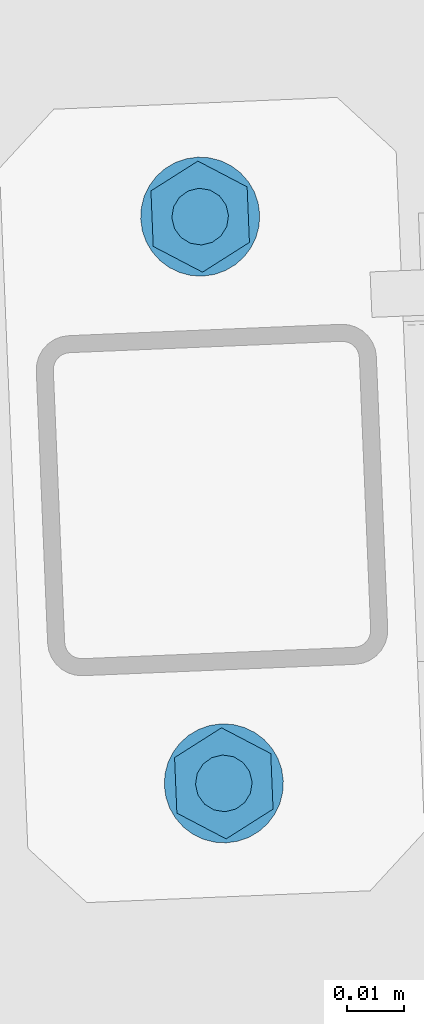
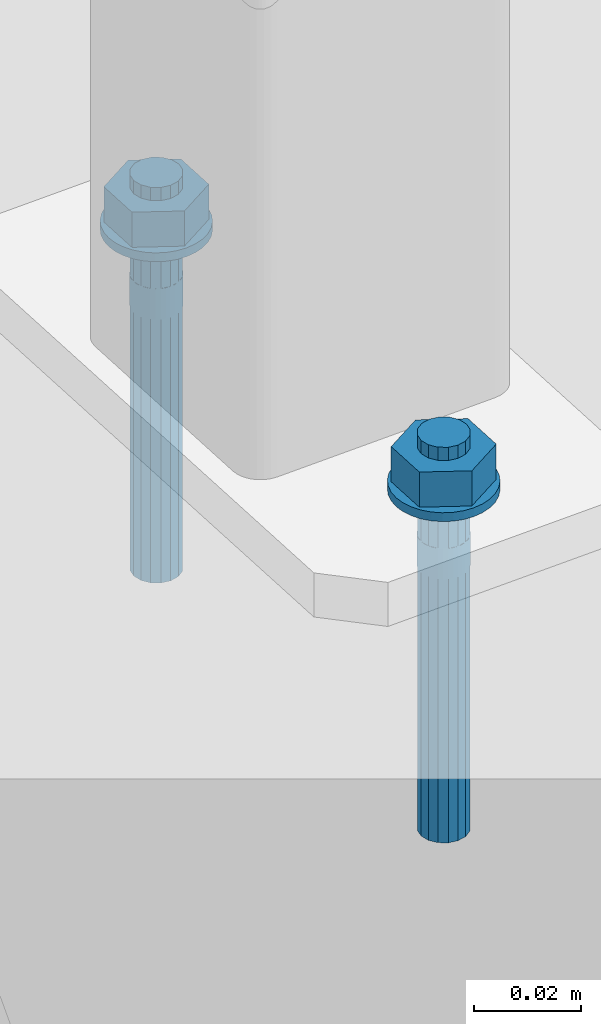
# One storey, part 192 of 288: 2 mechanical fasteners.
"""IFC2X3 building model written with IfcOpenShell, lengths in millimetres."""

from ifc_helpers import new_model, entity, si_unit, converted_unit, origin_with_axes, place, context, project, spatial, faceted_brep, element, save


model = new_model("IFC2X3")

# Units and contexts
model_context = context("Model", 3, precision=1e-09, world=origin_with_axes())
ifc_project = project(units=[si_unit("LENGTHUNIT", "METRE", prefix="MILLI"), si_unit("AREAUNIT", "SQUARE_METRE"), si_unit("VOLUMEUNIT", "CUBIC_METRE"), converted_unit("PLANEANGLEUNIT", "DEGREE", entity("IfcPlaneAngleMeasure", 0.01745329), si_unit("PLANEANGLEUNIT", "RADIAN"), dimensions=[0, 0, 0, 0, 0, 0, 0])], contexts=[model_context])

# Site, building, storey
site_placement = place(None, origin_with_axes())
site = spatial("IfcSite", under=ifc_project, at=site_placement, Name="Remont ?wietlik?w nad MC w NCPP w Opolu", CompositionType="ELEMENT")
building_placement = place(site_placement, origin_with_axes())
building = spatial("IfcBuilding", under=site, at=building_placement, Name="Konstrukcja 1", CompositionType="ELEMENT")
storey_placement = place(building_placement, origin_with_axes())
storey = spatial("IfcBuildingStorey", under=building, at=storey_placement, Name="Default Storey", CompositionType="ELEMENT", Elevation=0.0)

# Mechanical fasteners
mechanical_fastener_1_placement = place(None, origin_with_axes())
element("IfcMechanicalFastener", 1, at=mechanical_fastener_1_placement, inside=storey, ObjectType="Anchor_Bolt", NominalDiameter=10.0, NominalLength=90.0, context=model_context, shape_type="Brep", body=[
    faceted_brep([(-150.734219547, 866.370818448, 11.999999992), (-150.734219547, 866.370818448, 9.999999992), (-151.021161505, 868.409079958, 9.999999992), (-151.021161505, 868.409079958, 11.999999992), (-151.700235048, 870.352197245, 9.999999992), (-151.700235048, 870.352197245, 11.999999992), (-152.745343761, 872.125497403, 9.999999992), (-152.745343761, 872.125497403, 11.999999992), (-154.116324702, 873.6608335, 9.999999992), (-154.116324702, 873.6608335, 11.999999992), (-155.760491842, 874.899203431, 9.999999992), (-155.760491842, 874.899203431, 11.999999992), (-157.61466076, 875.793017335, 9.999999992), (-157.61466076, 875.793017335, 11.999999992), (-159.607576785, 876.307926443, 9.999999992), (-159.607576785, 876.307926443, 11.999999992), (-161.66265327, 876.424143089, 9.999999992), (-161.66265327, 876.424143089, 11.999999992), (-163.70091478, 876.137201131, 9.999999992), (-163.70091478, 876.137201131, 11.999999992), (-165.644032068, 875.458127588, 9.999999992), (-165.644032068, 875.458127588, 11.999999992), (-167.417332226, 874.413018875, 9.999999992), (-167.417332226, 874.413018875, 11.999999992), (-168.952668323, 873.042037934, 9.999999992), (-168.952668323, 873.042037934, 11.999999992), (-170.191038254, 871.397870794, 9.999999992), (-170.191038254, 871.397870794, 11.999999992), (-171.084852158, 869.543701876, 9.999999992), (-171.084852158, 869.543701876, 11.999999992), (-171.599761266, 867.550785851, 9.999999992), (-171.599761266, 867.550785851, 11.999999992), (-171.715977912, 865.495709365, 9.999999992), (-171.715977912, 865.495709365, 11.999999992), (-171.429035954, 863.457447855, 9.999999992), (-171.429035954, 863.457447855, 11.999999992), (-170.74996241, 861.514330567, 9.999999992), (-170.74996241, 861.514330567, 11.999999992), (-169.704853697, 859.74103041, 9.999999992), (-169.704853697, 859.74103041, 11.999999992), (-168.333872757, 858.205694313, 9.999999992), (-168.333872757, 858.205694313, 11.999999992), (-166.689705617, 856.967324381, 9.999999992), (-166.689705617, 856.967324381, 11.999999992), (-164.835536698, 856.073510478, 9.999999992), (-164.835536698, 856.073510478, 11.999999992), (-162.842620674, 855.558601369, 9.999999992), (-162.842620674, 855.558601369, 11.999999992), (-160.787544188, 855.442384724, 9.999999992), (-160.787544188, 855.442384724, 11.999999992), (-158.749282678, 855.729326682, 9.999999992), (-158.749282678, 855.729326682, 11.999999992), (-156.80616539, 856.408400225, 9.999999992), (-156.80616539, 856.408400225, 11.999999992), (-155.032865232, 857.453508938, 9.999999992), (-155.032865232, 857.453508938, 11.999999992), (-153.497529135, 858.824489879, 9.999999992), (-153.497529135, 858.824489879, 11.999999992), (-152.259159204, 860.468657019, 9.999999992), (-152.259159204, 860.468657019, 11.999999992), (-151.365345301, 862.322825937, 9.999999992), (-151.365345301, 862.322825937, 11.999999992), (-150.850436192, 864.315741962, 9.999999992), (-150.850436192, 864.315741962, 11.999999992)], [[[0, 1, 2, 3]], [[3, 2, 4, 5]], [[5, 4, 6, 7]], [[7, 6, 8, 9]], [[9, 8, 10, 11]], [[11, 10, 12, 13]], [[13, 12, 14, 15]], [[15, 14, 16, 17]], [[17, 16, 18, 19]], [[19, 18, 20, 21]], [[21, 20, 22, 23]], [[23, 22, 24, 25]], [[25, 24, 26, 27]], [[27, 26, 28, 29]], [[29, 28, 30, 31]], [[31, 30, 32, 33]], [[33, 32, 34, 35]], [[35, 34, 36, 37]], [[37, 36, 38, 39]], [[39, 38, 40, 41]], [[41, 40, 42, 43]], [[43, 42, 44, 45]], [[45, 44, 46, 47]], [[47, 46, 48, 49]], [[49, 48, 50, 51]], [[51, 50, 52, 53]], [[53, 52, 54, 55]], [[55, 54, 56, 57]], [[57, 56, 58, 59]], [[59, 58, 60, 61]], [[61, 60, 62, 63]], [[63, 62, 1, 0]], [[0, 3, 5, 7, 9, 11, 13, 15, 17, 19, 21, 23, 25, 27, 29, 31, 33, 35, 37, 39, 41, 43, 45, 47, 49, 51, 53, 55, 57, 59, 61, 63]], [[1, 62, 60, 58, 56, 54, 52, 50, 48, 46, 44, 42, 40, 38, 36, 34, 32, 30, 28, 26, 24, 22, 20, 18, 16, 14, 12, 10, 8, 6, 4, 2]]]),
    faceted_brep([(-169.908967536, 870.4753364, 11.999999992), (-169.908967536, 870.4753364, 19.999999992), (-161.633482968, 875.724751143, 19.999999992), (-161.633482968, 875.724751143, 11.999999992), (-152.94961416, 871.18267865, 19.999999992), (-152.94961416, 871.18267865, 11.999999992), (-152.541229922, 861.391191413, 19.999999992), (-152.541229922, 861.391191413, 11.999999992), (-160.816714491, 856.141776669, 19.999999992), (-160.816714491, 856.141776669, 11.999999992), (-169.500583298, 860.683849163, 19.999999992), (-169.500583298, 860.683849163, 11.999999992)], [[[0, 1, 2, 3]], [[3, 2, 4, 5]], [[5, 4, 6, 7]], [[7, 6, 8, 9]], [[9, 8, 10, 11]], [[11, 10, 1, 0]], [[4, 2, 1, 10, 8, 6]], [[0, 3, 5, 7, 9, 11]]]),
    faceted_brep([(-156.229441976, 866.141623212, 22.999999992), (-156.229441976, 866.141623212, 19.999999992), (-156.689449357, 868.037517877, 19.999999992), (-156.689449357, 868.037517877, 22.999999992), (-157.83996824, 869.613058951, 19.999999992), (-157.83996824, 869.613058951, 22.999999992), (-159.505842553, 870.628384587, 19.999999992), (-159.505842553, 870.628384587, 22.999999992), (-161.433458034, 870.92892066, 19.999999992), (-161.433458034, 870.92892066, 22.999999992), (-163.3293527, 870.468913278, 19.999999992), (-163.3293527, 870.468913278, 22.999999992), (-164.904893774, 869.318394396, 19.999999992), (-164.904893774, 869.318394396, 22.999999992), (-165.920219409, 867.652520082, 19.999999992), (-165.920219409, 867.652520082, 22.999999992), (-166.220755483, 865.724904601, 19.999999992), (-166.220755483, 865.724904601, 22.999999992), (-165.760748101, 863.829009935, 19.999999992), (-165.760748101, 863.829009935, 22.999999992), (-164.610229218, 862.253468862, 19.999999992), (-164.610229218, 862.253468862, 22.999999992), (-162.944354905, 861.238143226, 19.999999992), (-162.944354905, 861.238143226, 22.999999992), (-161.016739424, 860.937607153, 19.999999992), (-161.016739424, 860.937607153, 22.999999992), (-159.120844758, 861.397614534, 19.999999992), (-159.120844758, 861.397614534, 22.999999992), (-157.545303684, 862.548133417, 19.999999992), (-157.545303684, 862.548133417, 22.999999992), (-156.529978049, 864.214007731, 19.999999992), (-156.529978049, 864.214007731, 22.999999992)], [[[0, 1, 2, 3]], [[3, 2, 4, 5]], [[5, 4, 6, 7]], [[7, 6, 8, 9]], [[9, 8, 10, 11]], [[11, 10, 12, 13]], [[13, 12, 14, 15]], [[15, 14, 16, 17]], [[17, 16, 18, 19]], [[19, 18, 20, 21]], [[21, 20, 22, 23]], [[23, 22, 24, 25]], [[25, 24, 26, 27]], [[27, 26, 28, 29]], [[29, 28, 30, 31]], [[31, 30, 1, 0]], [[0, 3, 5, 7, 9, 11, 13, 15, 17, 19, 21, 23, 25, 27, 29, 31]], [[1, 30, 28, 26, 24, 22, 20, 18, 16, 14, 12, 10, 8, 6, 4, 2]]]),
    faceted_brep([(-156.229441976, 866.141623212, 10.000000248), (-156.229441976, 866.141623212, -8e-09), (-156.689449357, 868.037517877, -8e-09), (-156.689449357, 868.037517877, 10.000000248), (-157.83996824, 869.613058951, -8e-09), (-157.83996824, 869.613058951, 10.000000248), (-159.505842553, 870.628384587, -8e-09), (-159.505842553, 870.628384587, 10.000000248), (-161.433458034, 870.92892066, -8e-09), (-161.433458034, 870.92892066, 10.000000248), (-163.3293527, 870.468913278, -8e-09), (-163.3293527, 870.468913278, 10.000000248), (-164.904893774, 869.318394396, -8e-09), (-164.904893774, 869.318394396, 10.000000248), (-165.920219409, 867.652520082, -8e-09), (-165.920219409, 867.652520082, 10.000000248), (-166.220755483, 865.724904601, -8e-09), (-166.220755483, 865.724904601, 10.000000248), (-165.760748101, 863.829009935, -8e-09), (-165.760748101, 863.829009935, 10.000000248), (-164.610229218, 862.253468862, -8e-09), (-164.610229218, 862.253468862, 10.000000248), (-162.944354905, 861.238143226, -8e-09), (-162.944354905, 861.238143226, 10.000000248), (-161.016739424, 860.937607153, -8e-09), (-161.016739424, 860.937607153, 10.000000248), (-159.120844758, 861.397614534, -8e-09), (-159.120844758, 861.397614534, 10.000000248), (-157.545303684, 862.548133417, -8e-09), (-157.545303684, 862.548133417, 10.000000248), (-156.529978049, 864.214007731, -8e-09), (-156.529978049, 864.214007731, 10.000000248)], [[[0, 1, 2, 3]], [[3, 2, 4, 5]], [[5, 4, 6, 7]], [[7, 6, 8, 9]], [[9, 8, 10, 11]], [[11, 10, 12, 13]], [[13, 12, 14, 15]], [[15, 14, 16, 17]], [[17, 16, 18, 19]], [[19, 18, 20, 21]], [[21, 20, 22, 23]], [[23, 22, 24, 25]], [[25, 24, 26, 27]], [[27, 26, 28, 29]], [[29, 28, 30, 31]], [[31, 30, 1, 0]], [[0, 3, 5, 7, 9, 11, 13, 15, 17, 19, 21, 23, 25, 27, 29, 31]], [[1, 30, 28, 26, 24, 22, 20, 18, 16, 14, 12, 10, 8, 6, 4, 2]]]),
    faceted_brep([(-156.229441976, 866.141623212, -2.64e-07), (-156.229441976, 866.141623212, -7.000000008), (-156.366081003, 867.112223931, -7.000000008), (-156.366081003, 867.112223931, -2.64e-07), (-156.689449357, 868.037517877, -7.000000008), (-156.689449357, 868.037517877, -2.64e-07), (-157.187120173, 868.881946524, -7.000000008), (-157.187120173, 868.881946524, -2.64e-07), (-157.83996824, 869.613058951, -7.000000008), (-157.83996824, 869.613058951, -2.64e-07), (-158.622904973, 870.202758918, -7.000000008), (-158.622904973, 870.202758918, -2.64e-07), (-159.505842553, 870.628384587, -7.000000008), (-159.505842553, 870.628384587, -2.64e-07), (-160.454850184, 870.8735794, -7.000000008), (-160.454850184, 870.8735794, -2.64e-07), (-161.433458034, 870.92892066, -7.000000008), (-161.433458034, 870.92892066, -2.64e-07), (-162.404058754, 870.792281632, -7.000000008), (-162.404058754, 870.792281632, -2.64e-07), (-163.3293527, 870.468913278, -7.000000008), (-163.3293527, 870.468913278, -2.64e-07), (-164.173781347, 869.971242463, -7.000000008), (-164.173781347, 869.971242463, -2.64e-07), (-164.904893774, 869.318394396, -7.000000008), (-164.904893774, 869.318394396, -2.64e-07), (-165.494593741, 868.535457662, -7.000000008), (-165.494593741, 868.535457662, -2.64e-07), (-165.920219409, 867.652520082, -7.000000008), (-165.920219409, 867.652520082, -2.64e-07), (-166.165414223, 866.703512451, -7.000000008), (-166.165414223, 866.703512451, -2.64e-07), (-166.220755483, 865.724904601, -7.000000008), (-166.220755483, 865.724904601, -2.64e-07), (-166.084116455, 864.754303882, -7.000000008), (-166.084116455, 864.754303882, -2.64e-07), (-165.760748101, 863.829009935, -7.000000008), (-165.760748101, 863.829009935, -2.64e-07), (-165.263077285, 862.984581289, -7.000000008), (-165.263077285, 862.984581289, -2.64e-07), (-164.610229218, 862.253468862, -7.000000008), (-164.610229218, 862.253468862, -2.64e-07), (-163.827292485, 861.663768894, -7.000000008), (-163.827292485, 861.663768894, -2.64e-07), (-162.944354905, 861.238143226, -7.000000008), (-162.944354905, 861.238143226, -2.64e-07), (-161.995347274, 860.992948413, -7.000000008), (-161.995347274, 860.992948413, -2.64e-07), (-161.016739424, 860.937607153, -7.000000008), (-161.016739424, 860.937607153, -2.64e-07), (-160.046138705, 861.07424618, -7.000000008), (-160.046138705, 861.07424618, -2.64e-07), (-159.120844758, 861.397614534, -7.000000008), (-159.120844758, 861.397614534, -2.64e-07), (-158.276416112, 861.89528535, -7.000000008), (-158.276416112, 861.89528535, -2.64e-07), (-157.545303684, 862.548133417, -7.000000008), (-157.545303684, 862.548133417, -2.64e-07), (-156.955603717, 863.33107015, -7.000000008), (-156.955603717, 863.33107015, -2.64e-07), (-156.529978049, 864.214007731, -7.000000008), (-156.529978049, 864.214007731, -2.64e-07), (-156.284783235, 865.163015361, -7.000000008), (-156.284783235, 865.163015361, -2.64e-07)], [[[0, 1, 2, 3]], [[3, 2, 4, 5]], [[5, 4, 6, 7]], [[7, 6, 8, 9]], [[9, 8, 10, 11]], [[11, 10, 12, 13]], [[13, 12, 14, 15]], [[15, 14, 16, 17]], [[17, 16, 18, 19]], [[19, 18, 20, 21]], [[21, 20, 22, 23]], [[23, 22, 24, 25]], [[25, 24, 26, 27]], [[27, 26, 28, 29]], [[29, 28, 30, 31]], [[31, 30, 32, 33]], [[33, 32, 34, 35]], [[35, 34, 36, 37]], [[37, 36, 38, 39]], [[39, 38, 40, 41]], [[41, 40, 42, 43]], [[43, 42, 44, 45]], [[45, 44, 46, 47]], [[47, 46, 48, 49]], [[49, 48, 50, 51]], [[51, 50, 52, 53]], [[53, 52, 54, 55]], [[55, 54, 56, 57]], [[57, 56, 58, 59]], [[59, 58, 60, 61]], [[61, 60, 62, 63]], [[63, 62, 1, 0]], [[0, 3, 5, 7, 9, 11, 13, 15, 17, 19, 21, 23, 25, 27, 29, 31, 33, 35, 37, 39, 41, 43, 45, 47, 49, 51, 53, 55, 57, 59, 61, 63]], [[1, 62, 60, 58, 56, 54, 52, 50, 48, 46, 44, 42, 40, 38, 36, 34, 32, 30, 28, 26, 24, 22, 20, 18, 16, 14, 12, 10, 8, 6, 4, 2]]]),
    faceted_brep([(-156.229441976, 866.141623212, -7.000000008), (-156.229441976, 866.141623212, -67.000000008), (-156.689449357, 868.037517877, -67.000000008), (-156.689449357, 868.037517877, -7.000000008), (-157.83996824, 869.613058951, -67.000000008), (-157.83996824, 869.613058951, -7.000000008), (-159.505842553, 870.628384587, -67.000000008), (-159.505842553, 870.628384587, -7.000000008), (-161.433458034, 870.92892066, -67.000000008), (-161.433458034, 870.92892066, -7.000000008), (-163.3293527, 870.468913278, -67.000000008), (-163.3293527, 870.468913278, -7.000000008), (-164.904893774, 869.318394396, -67.000000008), (-164.904893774, 869.318394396, -7.000000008), (-165.920219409, 867.652520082, -67.000000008), (-165.920219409, 867.652520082, -7.000000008), (-166.220755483, 865.724904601, -67.000000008), (-166.220755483, 865.724904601, -7.000000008), (-165.760748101, 863.829009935, -67.000000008), (-165.760748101, 863.829009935, -7.000000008), (-164.610229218, 862.253468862, -67.000000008), (-164.610229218, 862.253468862, -7.000000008), (-162.944354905, 861.238143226, -67.000000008), (-162.944354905, 861.238143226, -7.000000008), (-161.016739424, 860.937607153, -67.000000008), (-161.016739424, 860.937607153, -7.000000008), (-159.120844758, 861.397614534, -67.000000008), (-159.120844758, 861.397614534, -7.000000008), (-157.545303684, 862.548133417, -67.000000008), (-157.545303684, 862.548133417, -7.000000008), (-156.529978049, 864.214007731, -67.000000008), (-156.529978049, 864.214007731, -7.000000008)], [[[0, 1, 2, 3]], [[3, 2, 4, 5]], [[5, 4, 6, 7]], [[7, 6, 8, 9]], [[9, 8, 10, 11]], [[11, 10, 12, 13]], [[13, 12, 14, 15]], [[15, 14, 16, 17]], [[17, 16, 18, 19]], [[19, 18, 20, 21]], [[21, 20, 22, 23]], [[23, 22, 24, 25]], [[25, 24, 26, 27]], [[27, 26, 28, 29]], [[29, 28, 30, 31]], [[31, 30, 1, 0]], [[0, 3, 5, 7, 9, 11, 13, 15, 17, 19, 21, 23, 25, 27, 29, 31]], [[1, 30, 28, 26, 24, 22, 20, 18, 16, 14, 12, 10, 8, 6, 4, 2]]]),
])
mechanical_fastener_2_placement = place(None, origin_with_axes())
element("IfcMechanicalFastener", 2, at=mechanical_fastener_2_placement, inside=storey, ObjectType="Anchor_Bolt", NominalDiameter=10.0, NominalLength=90.0, context=model_context, shape_type="Brep", body=[
    faceted_brep([(-154.901405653, 966.28395352, 11.999999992), (-154.901405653, 966.28395352, 9.999999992), (-155.188347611, 968.32221503, 9.999999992), (-155.188347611, 968.32221503, 11.999999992), (-155.867421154, 970.265332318, 9.999999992), (-155.867421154, 970.265332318, 11.999999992), (-156.912529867, 972.038632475, 9.999999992), (-156.912529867, 972.038632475, 11.999999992), (-158.283510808, 973.573968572, 9.999999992), (-158.283510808, 973.573968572, 11.999999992), (-159.927677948, 974.812338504, 9.999999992), (-159.927677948, 974.812338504, 11.999999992), (-161.781846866, 975.706152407, 9.999999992), (-161.781846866, 975.706152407, 11.999999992), (-163.774762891, 976.221061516, 9.999999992), (-163.774762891, 976.221061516, 11.999999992), (-165.829839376, 976.337278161, 9.999999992), (-165.829839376, 976.337278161, 11.999999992), (-167.868100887, 976.050336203, 9.999999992), (-167.868100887, 976.050336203, 11.999999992), (-169.811218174, 975.37126266, 9.999999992), (-169.811218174, 975.37126266, 11.999999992), (-171.584518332, 974.326153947, 9.999999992), (-171.584518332, 974.326153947, 11.999999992), (-173.119854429, 972.955173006, 9.999999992), (-173.119854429, 972.955173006, 11.999999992), (-174.35822436, 971.311005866, 9.999999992), (-174.35822436, 971.311005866, 11.999999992), (-175.252038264, 969.456836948, 9.999999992), (-175.252038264, 969.456836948, 11.999999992), (-175.766947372, 967.463920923, 9.999999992), (-175.766947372, 967.463920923, 11.999999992), (-175.883164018, 965.408844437, 9.999999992), (-175.883164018, 965.408844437, 11.999999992), (-175.59622206, 963.370582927, 9.999999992), (-175.59622206, 963.370582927, 11.999999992), (-174.917148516, 961.42746564, 9.999999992), (-174.917148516, 961.42746564, 11.999999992), (-173.872039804, 959.654165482, 9.999999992), (-173.872039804, 959.654165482, 11.999999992), (-172.501058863, 958.118829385, 9.999999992), (-172.501058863, 958.118829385, 11.999999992), (-170.856891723, 956.880459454, 9.999999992), (-170.856891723, 956.880459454, 11.999999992), (-169.002722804, 955.98664555, 9.999999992), (-169.002722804, 955.98664555, 11.999999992), (-167.00980678, 955.471736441, 9.999999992), (-167.00980678, 955.471736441, 11.999999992), (-164.954730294, 955.355519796, 9.999999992), (-164.954730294, 955.355519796, 11.999999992), (-162.916468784, 955.642461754, 9.999999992), (-162.916468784, 955.642461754, 11.999999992), (-160.973351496, 956.321535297, 9.999999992), (-160.973351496, 956.321535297, 11.999999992), (-159.200051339, 957.36664401, 9.999999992), (-159.200051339, 957.36664401, 11.999999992), (-157.664715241, 958.737624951, 9.999999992), (-157.664715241, 958.737624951, 11.999999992), (-156.42634531, 960.381792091, 9.999999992), (-156.42634531, 960.381792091, 11.999999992), (-155.532531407, 962.235961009, 9.999999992), (-155.532531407, 962.235961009, 11.999999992), (-155.017622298, 964.228877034, 9.999999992), (-155.017622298, 964.228877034, 11.999999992)], [[[0, 1, 2, 3]], [[3, 2, 4, 5]], [[5, 4, 6, 7]], [[7, 6, 8, 9]], [[9, 8, 10, 11]], [[11, 10, 12, 13]], [[13, 12, 14, 15]], [[15, 14, 16, 17]], [[17, 16, 18, 19]], [[19, 18, 20, 21]], [[21, 20, 22, 23]], [[23, 22, 24, 25]], [[25, 24, 26, 27]], [[27, 26, 28, 29]], [[29, 28, 30, 31]], [[31, 30, 32, 33]], [[33, 32, 34, 35]], [[35, 34, 36, 37]], [[37, 36, 38, 39]], [[39, 38, 40, 41]], [[41, 40, 42, 43]], [[43, 42, 44, 45]], [[45, 44, 46, 47]], [[47, 46, 48, 49]], [[49, 48, 50, 51]], [[51, 50, 52, 53]], [[53, 52, 54, 55]], [[55, 54, 56, 57]], [[57, 56, 58, 59]], [[59, 58, 60, 61]], [[61, 60, 62, 63]], [[63, 62, 1, 0]], [[0, 3, 5, 7, 9, 11, 13, 15, 17, 19, 21, 23, 25, 27, 29, 31, 33, 35, 37, 39, 41, 43, 45, 47, 49, 51, 53, 55, 57, 59, 61, 63]], [[1, 62, 60, 58, 56, 54, 52, 50, 48, 46, 44, 42, 40, 38, 36, 34, 32, 30, 28, 26, 24, 22, 20, 18, 16, 14, 12, 10, 8, 6, 4, 2]]]),
    faceted_brep([(-174.076153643, 970.388471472, 11.999999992), (-174.076153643, 970.388471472, 19.999999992), (-165.800669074, 975.637886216, 19.999999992), (-165.800669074, 975.637886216, 11.999999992), (-157.116800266, 971.095813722, 19.999999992), (-157.116800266, 971.095813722, 11.999999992), (-156.708416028, 961.304326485, 19.999999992), (-156.708416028, 961.304326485, 11.999999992), (-164.983900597, 956.054911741, 19.999999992), (-164.983900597, 956.054911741, 11.999999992), (-173.667769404, 960.596984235, 19.999999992), (-173.667769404, 960.596984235, 11.999999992)], [[[0, 1, 2, 3]], [[3, 2, 4, 5]], [[5, 4, 6, 7]], [[7, 6, 8, 9]], [[9, 8, 10, 11]], [[11, 10, 1, 0]], [[4, 2, 1, 10, 8, 6]], [[0, 3, 5, 7, 9, 11]]]),
    faceted_brep([(-160.396628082, 966.054758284, 22.999999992), (-160.396628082, 966.054758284, 19.999999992), (-160.856635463, 967.95065295, 19.999999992), (-160.856635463, 967.95065295, 22.999999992), (-162.007154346, 969.526194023, 19.999999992), (-162.007154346, 969.526194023, 22.999999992), (-163.673028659, 970.541519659, 19.999999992), (-163.673028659, 970.541519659, 22.999999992), (-165.600644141, 970.842055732, 19.999999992), (-165.600644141, 970.842055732, 22.999999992), (-167.496538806, 970.382048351, 19.999999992), (-167.496538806, 970.382048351, 22.999999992), (-169.07207988, 969.231529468, 19.999999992), (-169.07207988, 969.231529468, 22.999999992), (-170.087405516, 967.565655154, 19.999999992), (-170.087405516, 967.565655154, 22.999999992), (-170.387941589, 965.638039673, 19.999999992), (-170.387941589, 965.638039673, 22.999999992), (-169.927934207, 963.742145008, 19.999999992), (-169.927934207, 963.742145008, 22.999999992), (-168.777415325, 962.166603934, 19.999999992), (-168.777415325, 962.166603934, 22.999999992), (-167.111541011, 961.151278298, 19.999999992), (-167.111541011, 961.151278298, 22.999999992), (-165.18392553, 960.850742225, 19.999999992), (-165.18392553, 960.850742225, 22.999999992), (-163.288030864, 961.310749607, 19.999999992), (-163.288030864, 961.310749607, 22.999999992), (-161.712489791, 962.461268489, 19.999999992), (-161.712489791, 962.461268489, 22.999999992), (-160.697164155, 964.127142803, 19.999999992), (-160.697164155, 964.127142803, 22.999999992)], [[[0, 1, 2, 3]], [[3, 2, 4, 5]], [[5, 4, 6, 7]], [[7, 6, 8, 9]], [[9, 8, 10, 11]], [[11, 10, 12, 13]], [[13, 12, 14, 15]], [[15, 14, 16, 17]], [[17, 16, 18, 19]], [[19, 18, 20, 21]], [[21, 20, 22, 23]], [[23, 22, 24, 25]], [[25, 24, 26, 27]], [[27, 26, 28, 29]], [[29, 28, 30, 31]], [[31, 30, 1, 0]], [[0, 3, 5, 7, 9, 11, 13, 15, 17, 19, 21, 23, 25, 27, 29, 31]], [[1, 30, 28, 26, 24, 22, 20, 18, 16, 14, 12, 10, 8, 6, 4, 2]]]),
    faceted_brep([(-160.396628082, 966.054758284, 10.000000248), (-160.396628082, 966.054758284, -8e-09), (-160.856635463, 967.95065295, -8e-09), (-160.856635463, 967.95065295, 10.000000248), (-162.007154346, 969.526194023, -8e-09), (-162.007154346, 969.526194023, 10.000000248), (-163.673028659, 970.541519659, -8e-09), (-163.673028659, 970.541519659, 10.000000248), (-165.600644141, 970.842055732, -8e-09), (-165.600644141, 970.842055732, 10.000000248), (-167.496538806, 970.382048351, -8e-09), (-167.496538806, 970.382048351, 10.000000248), (-169.07207988, 969.231529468, -8e-09), (-169.07207988, 969.231529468, 10.000000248), (-170.087405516, 967.565655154, -8e-09), (-170.087405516, 967.565655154, 10.000000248), (-170.387941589, 965.638039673, -8e-09), (-170.387941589, 965.638039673, 10.000000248), (-169.927934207, 963.742145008, -8e-09), (-169.927934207, 963.742145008, 10.000000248), (-168.777415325, 962.166603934, -8e-09), (-168.777415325, 962.166603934, 10.000000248), (-167.111541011, 961.151278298, -8e-09), (-167.111541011, 961.151278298, 10.000000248), (-165.18392553, 960.850742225, -8e-09), (-165.18392553, 960.850742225, 10.000000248), (-163.288030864, 961.310749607, -8e-09), (-163.288030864, 961.310749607, 10.000000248), (-161.712489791, 962.461268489, -8e-09), (-161.712489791, 962.461268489, 10.000000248), (-160.697164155, 964.127142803, -8e-09), (-160.697164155, 964.127142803, 10.000000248)], [[[0, 1, 2, 3]], [[3, 2, 4, 5]], [[5, 4, 6, 7]], [[7, 6, 8, 9]], [[9, 8, 10, 11]], [[11, 10, 12, 13]], [[13, 12, 14, 15]], [[15, 14, 16, 17]], [[17, 16, 18, 19]], [[19, 18, 20, 21]], [[21, 20, 22, 23]], [[23, 22, 24, 25]], [[25, 24, 26, 27]], [[27, 26, 28, 29]], [[29, 28, 30, 31]], [[31, 30, 1, 0]], [[0, 3, 5, 7, 9, 11, 13, 15, 17, 19, 21, 23, 25, 27, 29, 31]], [[1, 30, 28, 26, 24, 22, 20, 18, 16, 14, 12, 10, 8, 6, 4, 2]]]),
    faceted_brep([(-160.396628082, 966.054758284, -2.64e-07), (-160.396628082, 966.054758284, -7.000000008), (-160.533267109, 967.025359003, -7.000000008), (-160.533267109, 967.025359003, -2.64e-07), (-160.856635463, 967.95065295, -7.000000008), (-160.856635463, 967.95065295, -2.64e-07), (-161.354306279, 968.795081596, -7.000000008), (-161.354306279, 968.795081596, -2.64e-07), (-162.007154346, 969.526194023, -7.000000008), (-162.007154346, 969.526194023, -2.64e-07), (-162.790091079, 970.11589399, -7.000000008), (-162.790091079, 970.11589399, -2.64e-07), (-163.673028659, 970.541519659, -7.000000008), (-163.673028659, 970.541519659, -2.64e-07), (-164.62203629, 970.786714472, -7.000000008), (-164.62203629, 970.786714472, -2.64e-07), (-165.600644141, 970.842055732, -7.000000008), (-165.600644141, 970.842055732, -2.64e-07), (-166.57124486, 970.705416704, -7.000000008), (-166.57124486, 970.705416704, -2.64e-07), (-167.496538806, 970.382048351, -7.000000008), (-167.496538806, 970.382048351, -2.64e-07), (-168.340967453, 969.884377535, -7.000000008), (-168.340967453, 969.884377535, -2.64e-07), (-169.07207988, 969.231529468, -7.000000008), (-169.07207988, 969.231529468, -2.64e-07), (-169.661779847, 968.448592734, -7.000000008), (-169.661779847, 968.448592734, -2.64e-07), (-170.087405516, 967.565655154, -7.000000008), (-170.087405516, 967.565655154, -2.64e-07), (-170.332600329, 966.616647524, -7.000000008), (-170.332600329, 966.616647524, -2.64e-07), (-170.387941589, 965.638039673, -7.000000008), (-170.387941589, 965.638039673, -2.64e-07), (-170.251302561, 964.667438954, -7.000000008), (-170.251302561, 964.667438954, -2.64e-07), (-169.927934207, 963.742145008, -7.000000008), (-169.927934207, 963.742145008, -2.64e-07), (-169.430263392, 962.897716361, -7.000000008), (-169.430263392, 962.897716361, -2.64e-07), (-168.777415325, 962.166603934, -7.000000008), (-168.777415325, 962.166603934, -2.64e-07), (-167.994478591, 961.576903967, -7.000000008), (-167.994478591, 961.576903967, -2.64e-07), (-167.111541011, 961.151278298, -7.000000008), (-167.111541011, 961.151278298, -2.64e-07), (-166.16253338, 960.906083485, -7.000000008), (-166.16253338, 960.906083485, -2.64e-07), (-165.18392553, 960.850742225, -7.000000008), (-165.18392553, 960.850742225, -2.64e-07), (-164.213324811, 960.987381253, -7.000000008), (-164.213324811, 960.987381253, -2.64e-07), (-163.288030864, 961.310749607, -7.000000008), (-163.288030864, 961.310749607, -2.64e-07), (-162.443602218, 961.808420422, -7.000000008), (-162.443602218, 961.808420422, -2.64e-07), (-161.712489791, 962.461268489, -7.000000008), (-161.712489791, 962.461268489, -2.64e-07), (-161.122789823, 963.244205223, -7.000000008), (-161.122789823, 963.244205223, -2.64e-07), (-160.697164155, 964.127142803, -7.000000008), (-160.697164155, 964.127142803, -2.64e-07), (-160.451969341, 965.076150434, -7.000000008), (-160.451969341, 965.076150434, -2.64e-07)], [[[0, 1, 2, 3]], [[3, 2, 4, 5]], [[5, 4, 6, 7]], [[7, 6, 8, 9]], [[9, 8, 10, 11]], [[11, 10, 12, 13]], [[13, 12, 14, 15]], [[15, 14, 16, 17]], [[17, 16, 18, 19]], [[19, 18, 20, 21]], [[21, 20, 22, 23]], [[23, 22, 24, 25]], [[25, 24, 26, 27]], [[27, 26, 28, 29]], [[29, 28, 30, 31]], [[31, 30, 32, 33]], [[33, 32, 34, 35]], [[35, 34, 36, 37]], [[37, 36, 38, 39]], [[39, 38, 40, 41]], [[41, 40, 42, 43]], [[43, 42, 44, 45]], [[45, 44, 46, 47]], [[47, 46, 48, 49]], [[49, 48, 50, 51]], [[51, 50, 52, 53]], [[53, 52, 54, 55]], [[55, 54, 56, 57]], [[57, 56, 58, 59]], [[59, 58, 60, 61]], [[61, 60, 62, 63]], [[63, 62, 1, 0]], [[0, 3, 5, 7, 9, 11, 13, 15, 17, 19, 21, 23, 25, 27, 29, 31, 33, 35, 37, 39, 41, 43, 45, 47, 49, 51, 53, 55, 57, 59, 61, 63]], [[1, 62, 60, 58, 56, 54, 52, 50, 48, 46, 44, 42, 40, 38, 36, 34, 32, 30, 28, 26, 24, 22, 20, 18, 16, 14, 12, 10, 8, 6, 4, 2]]]),
    faceted_brep([(-160.396628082, 966.054758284, -7.000000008), (-160.396628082, 966.054758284, -67.000000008), (-160.856635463, 967.95065295, -67.000000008), (-160.856635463, 967.95065295, -7.000000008), (-162.007154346, 969.526194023, -67.000000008), (-162.007154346, 969.526194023, -7.000000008), (-163.673028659, 970.541519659, -67.000000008), (-163.673028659, 970.541519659, -7.000000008), (-165.600644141, 970.842055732, -67.000000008), (-165.600644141, 970.842055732, -7.000000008), (-167.496538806, 970.382048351, -67.000000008), (-167.496538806, 970.382048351, -7.000000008), (-169.07207988, 969.231529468, -67.000000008), (-169.07207988, 969.231529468, -7.000000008), (-170.087405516, 967.565655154, -67.000000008), (-170.087405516, 967.565655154, -7.000000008), (-170.387941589, 965.638039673, -67.000000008), (-170.387941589, 965.638039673, -7.000000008), (-169.927934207, 963.742145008, -67.000000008), (-169.927934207, 963.742145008, -7.000000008), (-168.777415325, 962.166603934, -67.000000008), (-168.777415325, 962.166603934, -7.000000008), (-167.111541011, 961.151278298, -67.000000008), (-167.111541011, 961.151278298, -7.000000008), (-165.18392553, 960.850742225, -67.000000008), (-165.18392553, 960.850742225, -7.000000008), (-163.288030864, 961.310749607, -67.000000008), (-163.288030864, 961.310749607, -7.000000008), (-161.712489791, 962.461268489, -67.000000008), (-161.712489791, 962.461268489, -7.000000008), (-160.697164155, 964.127142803, -67.000000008), (-160.697164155, 964.127142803, -7.000000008)], [[[0, 1, 2, 3]], [[3, 2, 4, 5]], [[5, 4, 6, 7]], [[7, 6, 8, 9]], [[9, 8, 10, 11]], [[11, 10, 12, 13]], [[13, 12, 14, 15]], [[15, 14, 16, 17]], [[17, 16, 18, 19]], [[19, 18, 20, 21]], [[21, 20, 22, 23]], [[23, 22, 24, 25]], [[25, 24, 26, 27]], [[27, 26, 28, 29]], [[29, 28, 30, 31]], [[31, 30, 1, 0]], [[0, 3, 5, 7, 9, 11, 13, 15, 17, 19, 21, 23, 25, 27, 29, 31]], [[1, 30, 28, 26, 24, 22, 20, 18, 16, 14, 12, 10, 8, 6, 4, 2]]]),
])

save(model, "model.ifc")
